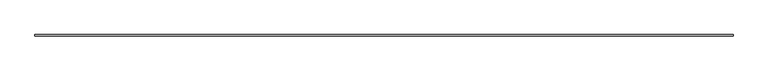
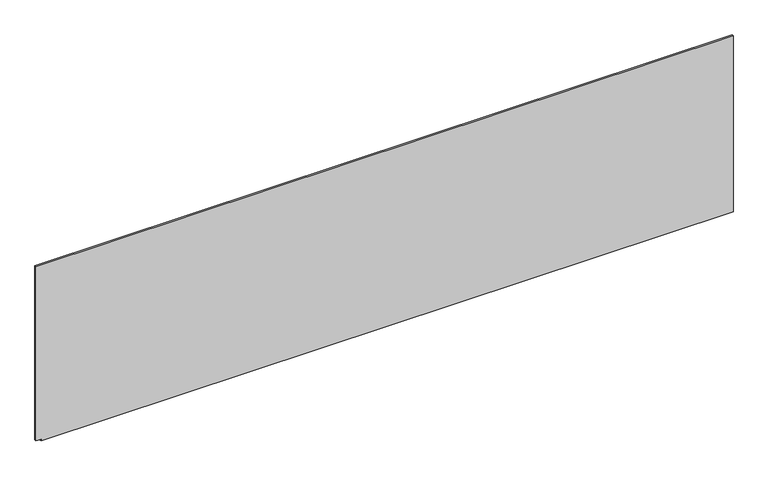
"""IFC4 building model written with IfcOpenShell, lengths in millimetres: plate geometry, システム パネル : 標準."""

from ifc_helpers import new_model, si_unit, frame, origin, place, context, project, spatial, polyline, outline, extrude, source, transform, mapped, element, save


def plate_7e81487f(model_context):
    return source(origin(), model_context, "Body", "SweptSolid", [
        extrude(outline(polyline([(0.0, -2246.6666667), (0.0, 2281.6666667), (12.9606059, 2281.6666667), (1217.400108, 2281.6666667), (1217.400108, -2281.6666667), (12.9607939, -2281.6666667), (12.9607939, -2246.6666667), (0.0, -2246.6666667)])), frame((0.0, -5.0, 0.0), z_axis=(0.0, 1.0, 0.0), x_axis=(0.0, 0.0, 1.0)), (0.0, 0.0, 1.0), 10.0),
    ])


if __name__ == "__main__":
    model = new_model("IFC4")
    model_context = context("Model", 3, world=origin())
    ifc_project = project(units=[si_unit("LENGTHUNIT", "METRE", prefix="MILLI")], contexts=[model_context])
    site = spatial("IfcSite", under=ifc_project)
    building = spatial("IfcBuilding", under=site)
    placement = place(None, origin())
    plate_shape = plate_7e81487f(model_context)
    element("IfcPlate", 1, ObjectType="システム パネル : 標準", at=placement, inside=building, context=model_context, shape_type="MappedRepresentation", body=[
        mapped(plate_shape, transform((0.0, 0.0, 0.0), x_axis=(1.0, 0.0, 0.0), y_axis=(0.0, 1.0, 0.0), z_axis=(0.0, 0.0, 1.0))),
    ])
    save(model, "model.ifc")
